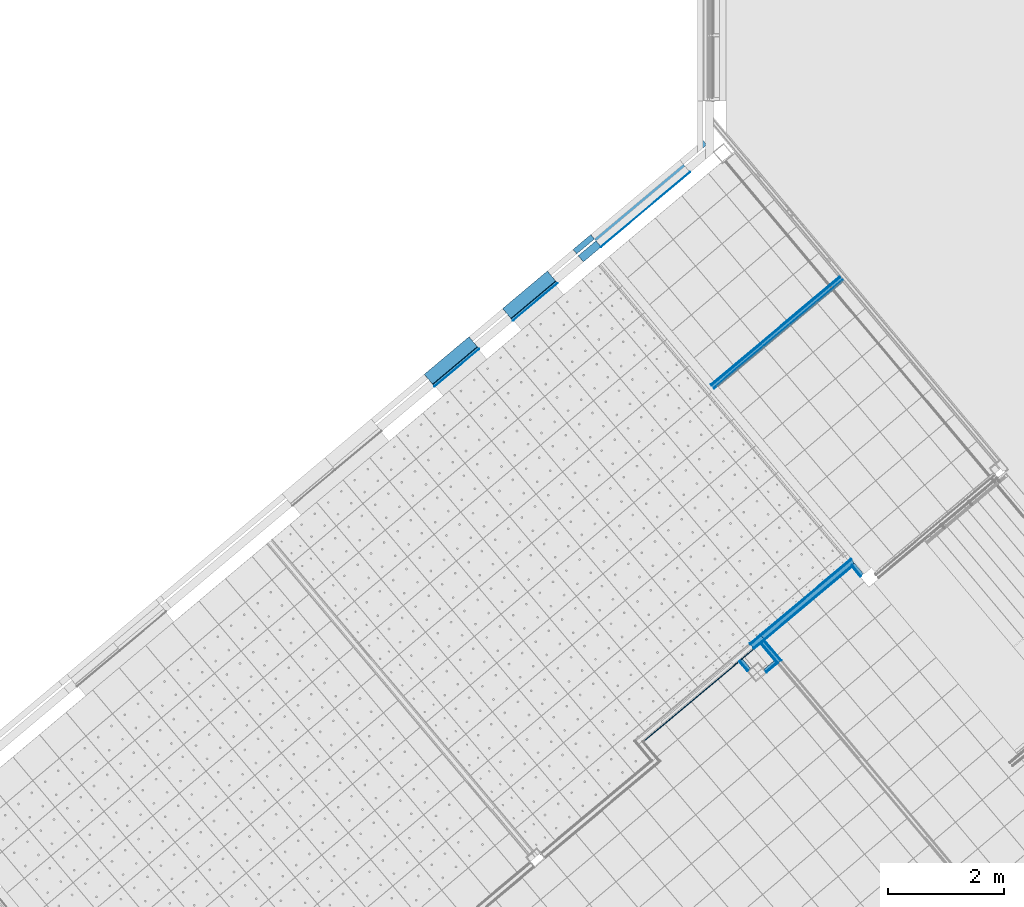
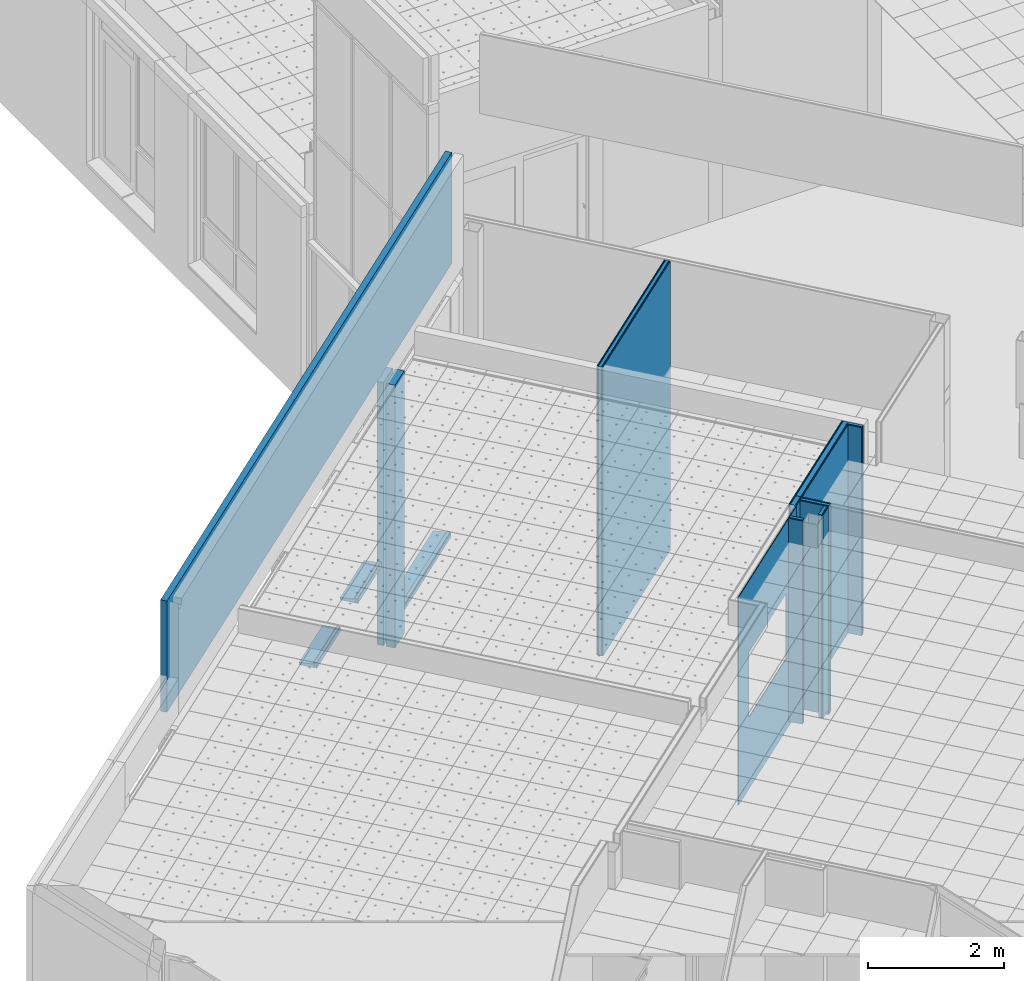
# One storey, part 62 of 338: 41 building element parts, 1 opening, 13 elements without a shape of their own.
"""IFC2X3 building model written with IfcOpenShell, lengths in millimetres."""

from ifc_helpers import new_model, entity, si_unit, converted_unit, derived_unit, money_unit, direction, frame, origin_with_axes, place, context, subcontext, project, spatial, faceted_brep, material, type_object, element, aggregate, save


model = new_model("IFC2X3")

# Units and contexts
model_context = context("Model", 3, precision=0.01, world=origin_with_axes(), true_north=direction((0.0, 1.0)))
plan_context = context("Plan", 3, precision=0.01, world=origin_with_axes(), true_north=direction((0.0, 1.0)))
body_context = subcontext(model_context, "Body", "Model", "MODEL_VIEW")
ifc_project = project(units=[si_unit("LENGTHUNIT", "METRE", prefix="MILLI"), si_unit("AREAUNIT", "SQUARE_METRE"), si_unit("VOLUMEUNIT", "CUBIC_METRE"), converted_unit("PLANEANGLEUNIT", "DEGREE", entity("IfcPlaneAngleMeasure", 0.0174532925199), si_unit("PLANEANGLEUNIT", "RADIAN"), dimensions=[0, 0, 0, 0, 0, 0, 0]), money_unit("EUR"), converted_unit("TIMEUNIT", "Year", entity("IfcTimeMeasure", 31556926.0), si_unit("TIMEUNIT", "SECOND"), dimensions=[0, 0, 1, 0, 0, 0, 0]), si_unit("MASSUNIT", "GRAM", prefix="KILO"), si_unit("THERMODYNAMICTEMPERATUREUNIT", "DEGREE_CELSIUS"), si_unit("LUMINOUSINTENSITYUNIT", "LUMEN"), si_unit("ENERGYUNIT", "JOULE", prefix="MEGA"), derived_unit("THERMALCONDUCTANCEUNIT", [(si_unit("POWERUNIT", "WATT"), 1), (si_unit("LENGTHUNIT", "METRE"), -1), (si_unit("THERMODYNAMICTEMPERATUREUNIT", "KELVIN"), -1)]), derived_unit("SPECIFICHEATCAPACITYUNIT", [(si_unit("ENERGYUNIT", "JOULE"), 1), (si_unit("MASSUNIT", "GRAM", prefix="KILO"), -1), (si_unit("THERMODYNAMICTEMPERATUREUNIT", "KELVIN"), -1)]), derived_unit("MASSDENSITYUNIT", [(si_unit("MASSUNIT", "GRAM", prefix="KILO"), 1), (si_unit("VOLUMEUNIT", "CUBIC_METRE"), -1)])], contexts=[model_context, plan_context])

# Site, building, storey
site_placement = place(None, origin_with_axes())
site = spatial("IfcSite", under=ifc_project, at=site_placement, Name="Fortuinstraat Woensdrecht", CompositionType="ELEMENT")
building_placement = place(site_placement, origin_with_axes())
building = spatial("IfcBuilding", under=site, at=building_placement, Name="IKC Fortuna", CompositionType="ELEMENT")
storey_placement = place(building_placement, origin_with_axes())
storey = spatial("IfcBuildingStorey", under=building, at=storey_placement, Name="00 begane grond", CompositionType="ELEMENT", Elevation=0.0)

# Wall, building element parts
wall_type_1 = type_object("IfcWallType", Name="MS100 2.50.2A 100", PredefinedType="NOTDEFINED")
wall_1_placement = place(storey_placement, frame((13612.1430338, 7323.55993724, -90.0), z_axis=(0.0, 0.0, 1.0), x_axis=(0.766044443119, 0.642787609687, 0.0)))
wall_1 = element("IfcWall", 1, at=wall_1_placement, inside=storey, type_object=wall_type_1, Name="22_Wand_Binnenwand")
ifc_material_1 = material(Name="Gipsplaat")
building_element_part_1_placement = place(wall_1_placement, origin_with_axes())
building_element_part_1 = element("IfcBuildingElementPart", 2, at=building_element_part_1_placement, material=ifc_material_1, Name="Gipsplaat", context=body_context, shape_type="Brep", body=[
    faceted_brep([(2902.49994966, 100.0, 5190.0), (0.0, 100.0, 5190.0), (0.0, 87.5, 5190.0), (2902.49994966, 87.5, 5190.0), (2902.49994966, 100.0, 0.0), (0.0, 100.0, 0.0), (0.0, 87.5, 0.0), (2902.49994966, 87.5, 0.0)], [[[0, 1, 2, 3]], [[4, 5, 1, 0]], [[2, 1, 5, 6]], [[3, 2, 6, 7]], [[3, 7, 4, 0]], [[7, 6, 5, 4]]]),
])
building_element_part_2_placement = place(wall_1_placement, origin_with_axes())
building_element_part_2 = element("IfcBuildingElementPart", 3, at=building_element_part_2_placement, material=ifc_material_1, Name="Gipsplaat", context=body_context, shape_type="Brep", body=[
    faceted_brep([(2902.49994966, 87.5, 5190.0), (0.0, 87.5, 5190.0), (0.0, 75.0, 5190.0), (2902.49994966, 75.0, 5190.0), (2902.49994966, 87.5, 0.0), (0.0, 87.5, 0.0), (0.0, 75.0, 0.0), (2902.49994966, 75.0, 0.0)], [[[0, 1, 2, 3]], [[4, 5, 1, 0]], [[2, 1, 5, 6]], [[3, 2, 6, 7]], [[3, 7, 4, 0]], [[7, 6, 5, 4]]]),
])
ifc_material_2 = material(Name="Isolatie - Steenwol LSW")
building_element_part_3_placement = place(wall_1_placement, origin_with_axes())
building_element_part_3 = element("IfcBuildingElementPart", 4, at=building_element_part_3_placement, material=ifc_material_2, Name="Isolatie - Steenwol LSW", context=body_context, shape_type="Brep", body=[
    faceted_brep([(2902.49994966, 75.0, 5190.0), (0.0, 75.0, 5190.0), (0.0, 25.0, 5190.0), (2902.49994966, 25.0, 5190.0), (2902.49994966, 75.0, 0.0), (0.0, 75.0, 0.0), (0.0, 25.0, 0.0), (2902.49994966, 25.0, 0.0)], [[[0, 1, 2, 3]], [[4, 5, 1, 0]], [[2, 1, 5, 6]], [[3, 2, 6, 7]], [[3, 7, 4, 0]], [[7, 6, 5, 4]]]),
])
building_element_part_4_placement = place(wall_1_placement, origin_with_axes())
building_element_part_4 = element("IfcBuildingElementPart", 5, at=building_element_part_4_placement, material=ifc_material_1, Name="Gipsplaat", context=body_context, shape_type="Brep", body=[
    faceted_brep([(2902.49994966, 25.0, 5190.0), (0.0, 25.0, 5190.0), (0.0, 12.5, 5190.0), (2902.49994966, 12.5, 5190.0), (2902.49994966, 25.0, 0.0), (0.0, 25.0, 0.0), (0.0, 12.5, 0.0), (2902.49994966, 12.5, 0.0)], [[[0, 1, 2, 3]], [[4, 5, 1, 0]], [[2, 1, 5, 6]], [[3, 2, 6, 7]], [[3, 7, 4, 0]], [[7, 6, 5, 4]]]),
])
building_element_part_5_placement = place(wall_1_placement, origin_with_axes())
building_element_part_5 = element("IfcBuildingElementPart", 6, at=building_element_part_5_placement, material=ifc_material_1, Name="Gipsplaat", context=body_context, shape_type="Brep", body=[
    faceted_brep([(2902.49994966, 12.5, 5190.0), (0.0, 12.5, 5190.0), (0.0, 0.0, 5190.0), (2902.49994966, 0.0, 5190.0), (2902.49994966, 12.5, 0.0), (0.0, 12.5, 0.0), (0.0, 0.0, 0.0), (2902.49994966, 0.0, 0.0)], [[[0, 1, 2, 3]], [[4, 5, 1, 0]], [[2, 1, 5, 6]], [[3, 2, 6, 7]], [[3, 7, 4, 0]], [[7, 6, 5, 4]]]),
])
aggregate(wall_1, [building_element_part_1, building_element_part_2, building_element_part_3, building_element_part_4, building_element_part_5])

# Wall, opening, building element part
wall_type_2 = type_object("IfcWallType", Name="MS125 2.75.2A 125", PredefinedType="NOTDEFINED")
wall_2_placement = place(storey_placement, frame((12346.0544925, 1180.5984162, 1360.0), z_axis=(0.0, 0.0, 1.0), x_axis=(0.766044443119, 0.642787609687, 0.0)))
wall_2 = element("IfcWall", 7, at=wall_2_placement, inside=storey, type_object=wall_type_2, Name="22_Wand_Binnenwand")
opening_placement = place(wall_2_placement, frame((1305.49959372, 0.0, 1290.0), z_axis=(0.0, 0.0, 1.0), x_axis=(1.0, 0.0, 0.0)))
element("IfcOpeningElement", 8, at=opening_placement, cuts=wall_2, Name="32_Raam_h.05", context=body_context, shape_type="Brep", body=[
    faceted_brep([(-800.0, 11.0, 0.0), (-800.0, 11.0, 1167.0), (-800.0, 250.0, 1167.0), (-800.0, 250.0, 0.0), (800.0, 11.0, 0.0), (800.0, 11.0, 1167.0), (800.0, 250.0, 1167.0), (800.0, 250.0, 0.0)], [[[0, 1, 2, 3]], [[0, 4, 5, 1]], [[1, 5, 6, 2]], [[3, 2, 6, 7]], [[4, 0, 3, 7]], [[5, 4, 7, 6]]]),
    faceted_brep([(-800.0, 11.0, 1167.0), (-800.0, 11.0, 0.0), (-800.0, -125.0, 0.0), (-800.0, -125.0, 1167.0), (800.0, 11.0, 1167.0), (800.0, 11.0, 0.0), (800.0, -125.0, 0.0), (800.0, -125.0, 1167.0)], [[[0, 1, 2, 3]], [[0, 4, 5, 1]], [[1, 5, 6, 2]], [[3, 2, 6, 7]], [[4, 0, 3, 7]], [[5, 4, 7, 6]]]),
])
building_element_part_6_placement = place(wall_2_placement, origin_with_axes())
building_element_part_6 = element("IfcBuildingElementPart", 9, at=building_element_part_6_placement, material=ifc_material_1, Name="Gipsplaat", context=body_context, shape_type="Brep", body=[
    faceted_brep([(50.0, 12.5, 0.0), (50.0, 12.5, 3740.0), (2554.51388736, 12.5, 3740.0), (2554.51388736, 12.5, 0.0), (505.499593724, 12.5, 1290.0), (2105.49959372, 12.5, 1290.0), (2105.49959372, 12.5, 2457.0), (505.499593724, 12.5, 2457.0), (50.0, 0.0, 0.0), (50.0, 0.0, 3740.0), (2554.51388736, 0.0, 3740.0), (2554.51388736, 0.0, 0.0), (505.499593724, 0.0, 1290.0), (2105.49959372, 0.0, 1290.0), (2105.49959372, 0.0, 2457.0), (505.499593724, 0.0, 2457.0)], [[[0, 1, 2, 3], [4, 5, 6, 7]], [[0, 8, 9, 1]], [[1, 9, 10, 2]], [[3, 2, 10, 11]], [[8, 0, 3, 11]], [[5, 4, 12, 13]], [[14, 6, 5, 13]], [[15, 7, 6, 14]], [[4, 7, 15, 12]], [[9, 8, 11, 10], [15, 14, 13, 12]]]),
])
aggregate(wall_2, [building_element_part_6])

# Wall, building element part
wall_type_3 = type_object("IfcWallType", Name="21 MW hoofd 280", PredefinedType="NOTDEFINED")
wall_3_placement = place(storey_placement, frame((13595.4349765, 11407.9244745, 4447.5), z_axis=(0.0, 0.0, 1.0), x_axis=(-0.766044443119, -0.642787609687, 0.0)))
wall_3 = element("IfcWall", 10, at=wall_3_placement, inside=storey, type_object=wall_type_3, Name="21_Wand_Baksteen")
ifc_material_3 = material(Name="Steen - Baksteen Hoofd")
building_element_part_7_placement = place(wall_3_placement, origin_with_axes())
building_element_part_7 = element("IfcBuildingElementPart", 11, at=building_element_part_7_placement, material=ifc_material_3, Name="Steen - Baksteen Hoofd", context=body_context, shape_type="Brep", body=[
    faceted_brep([(0.0, -280.0, 0.0), (0.0, -180.0, 0.0), (12252.67992, -180.0, 0.0), (12252.67992, -280.0, 0.0), (0.0, -280.0, 2000.0), (0.0, -180.0, 2000.0), (12252.67992, -180.0, 2000.0), (12252.67992, -280.0, 2000.0)], [[[0, 1, 2, 3]], [[4, 5, 1, 0]], [[1, 5, 6, 2]], [[7, 3, 2, 6]], [[4, 0, 3, 7]], [[5, 4, 7, 6]]]),
])
aggregate(wall_3, [building_element_part_7])

# Covering, building element parts
covering_type_1 = type_object("IfcCoveringType", Name="41 dorpel 1450 280 x 88", PredefinedType="NOTDEFINED")
covering_1_placement = place(storey_placement, frame((10036.7735704, 8604.6100216, 1447.5), z_axis=(0.0, 0.0, 1.0), x_axis=(0.766044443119, 0.642787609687, 0.0)))
covering_1 = element("IfcCovering", 12, at=covering_1_placement, inside=storey, type_object=covering_type_1, Name="41_Afwerking_Dorpel", PredefinedType="NOTDEFINED")
ifc_material_4 = material(Name="Steen - Kunststeen")
building_element_part_8_placement = place(covering_1_placement, origin_with_axes())
building_element_part_8 = element("IfcBuildingElementPart", 13, at=building_element_part_8_placement, material=ifc_material_4, Name="Steen - Kunststeen", context=body_context, shape_type="Brep", body=[
    faceted_brep([(1010.0, 140.0, -39.7722078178), (1010.0, 140.0, -85.0), (0.0, 140.0, -85.0), (0.0, 140.0, -39.7722078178), (1010.0, -82.0, -19.5865456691), (1010.0, -82.0, 2.5), (1010.0, -92.0, 2.5), (1010.0, -92.0, -85.0), (0.0, -92.0, -85.0), (0.0, -92.0, 2.5), (0.0, -82.0, 2.5), (0.0, -82.0, -19.5865456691)], [[[0, 1, 2, 3]], [[0, 4, 5, 6, 7, 1]], [[1, 7, 8, 2]], [[3, 2, 8, 9, 10, 11]], [[4, 0, 3, 11]], [[5, 4, 11, 10]], [[6, 5, 10, 9]], [[7, 6, 9, 8]]]),
])
ifc_material_5 = material(Name="Hout AFW")
building_element_part_9_placement = place(covering_1_placement, origin_with_axes())
building_element_part_9 = element("IfcBuildingElementPart", 14, at=building_element_part_9_placement, material=ifc_material_5, Name="Hout AFW", context=body_context, shape_type="Brep", body=[
    faceted_brep([(1010.0, -92.0000008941, 2.49999910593), (1010.0, -92.0000008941, -85.0), (0.0, -92.0000008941, -85.0), (0.0, -92.0000008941, 2.49999910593), (1010.0, -130.0, 2.49999910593), (1010.0, -130.0, -85.0), (0.0, -130.0, -85.0), (0.0, -130.0, 2.49999910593)], [[[0, 1, 2, 3]], [[0, 4, 5, 1]], [[1, 5, 6, 2]], [[3, 2, 6, 7]], [[4, 0, 3, 7]], [[5, 4, 7, 6]]]),
])
ifc_material_6 = material(Name="Isolatie - PUR gespoten")
building_element_part_10_placement = place(covering_1_placement, origin_with_axes())
building_element_part_10 = element("IfcBuildingElementPart", 15, at=building_element_part_10_placement, material=ifc_material_6, Name="Isolatie - PUR gespoten", context=body_context, shape_type="Brep", body=[
    faceted_brep([(1010.0, -129.999999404, -85.0), (1010.0, -140.000000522, -85.0), (0.0, -140.000000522, -85.0), (0.0, -129.999999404, -85.0), (1010.0, -129.999999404, 2.49999869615), (1010.0, -140.000000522, 2.5), (0.0, -140.000000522, 2.5), (0.0, -129.999999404, 2.49999869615)], [[[0, 1, 2, 3]], [[0, 4, 5, 1]], [[1, 5, 6, 2]], [[3, 2, 6, 7]], [[4, 0, 3, 7]], [[5, 4, 7, 6]]]),
])
aggregate(covering_1, [building_element_part_8, building_element_part_9, building_element_part_10])

covering_2_placement = place(storey_placement, frame((8681.51013045, 7467.40896903, 1447.5), z_axis=(0.0, 0.0, 1.0), x_axis=(0.766044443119, 0.642787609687, 0.0)))
covering_2 = element("IfcCovering", 16, at=covering_2_placement, inside=storey, type_object=covering_type_1, Name="41_Afwerking_Dorpel", PredefinedType="NOTDEFINED")
building_element_part_11_placement = place(covering_2_placement, origin_with_axes())
building_element_part_11 = element("IfcBuildingElementPart", 17, at=building_element_part_11_placement, material=ifc_material_4, Name="Steen - Kunststeen", context=body_context, shape_type="Brep", body=[
    faceted_brep([(1010.0, 140.0, -39.7722078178), (1010.0, 140.0, -85.0), (0.0, 140.0, -85.0), (0.0, 140.0, -39.7722078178), (1010.0, -82.0, -19.5865456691), (1010.0, -82.0, 2.5), (1010.0, -92.0, 2.5), (1010.0, -92.0, -85.0), (0.0, -92.0, -85.0), (0.0, -92.0, 2.5), (0.0, -82.0, 2.5), (0.0, -82.0, -19.5865456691)], [[[0, 1, 2, 3]], [[0, 4, 5, 6, 7, 1]], [[1, 7, 8, 2]], [[3, 2, 8, 9, 10, 11]], [[4, 0, 3, 11]], [[5, 4, 11, 10]], [[6, 5, 10, 9]], [[7, 6, 9, 8]]]),
])
building_element_part_12_placement = place(covering_2_placement, origin_with_axes())
building_element_part_12 = element("IfcBuildingElementPart", 18, at=building_element_part_12_placement, material=ifc_material_5, Name="Hout AFW", context=body_context, shape_type="Brep", body=[
    faceted_brep([(1010.0, -92.0000008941, 2.49999910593), (1010.0, -92.0000008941, -85.0), (0.0, -92.0000008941, -85.0), (0.0, -92.0000008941, 2.49999910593), (1010.0, -130.0, 2.49999910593), (1010.0, -130.0, -85.0), (0.0, -130.0, -85.0), (0.0, -130.0, 2.49999910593)], [[[0, 1, 2, 3]], [[0, 4, 5, 1]], [[1, 5, 6, 2]], [[3, 2, 6, 7]], [[4, 0, 3, 7]], [[5, 4, 7, 6]]]),
])
building_element_part_13_placement = place(covering_2_placement, origin_with_axes())
building_element_part_13 = element("IfcBuildingElementPart", 19, at=building_element_part_13_placement, material=ifc_material_6, Name="Isolatie - PUR gespoten", context=body_context, shape_type="Brep", body=[
    faceted_brep([(1010.0, -129.999999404, -85.0), (1010.0, -140.000000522, -85.0), (0.0, -140.000000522, -85.0), (0.0, -129.999999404, -85.0), (1010.0, -129.999999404, 2.49999869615), (1010.0, -140.000000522, 2.5), (0.0, -140.000000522, 2.5), (0.0, -129.999999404, 2.49999869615)], [[[0, 1, 2, 3]], [[0, 4, 5, 1]], [[1, 5, 6, 2]], [[3, 2, 6, 7]], [[4, 0, 3, 7]], [[5, 4, 7, 6]]]),
])
aggregate(covering_2, [building_element_part_11, building_element_part_12, building_element_part_13])

# Wall, building element parts
wall_type_4 = type_object("IfcWallType", Name="21 MW accent 280", PredefinedType="NOTDEFINED")
wall_4_placement = place(storey_placement, frame((11651.8275335, 9777.04418592, -485.0), z_axis=(0.0, 0.0, 1.0), x_axis=(-0.766044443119, -0.642787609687, 0.0)))
wall_4 = element("IfcWall", 20, at=wall_4_placement, inside=storey, type_object=wall_type_4, Name="21_Wand_Baksteen")
ifc_material_7 = material(Name="ALG - ISOLATIE")
building_element_part_14_placement = place(wall_4_placement, origin_with_axes())
building_element_part_14 = element("IfcBuildingElementPart", 21, at=building_element_part_14_placement, material=ifc_material_7, Name="ALG - ISOLATIE", context=body_context, shape_type="Brep", body=[
    faceted_brep([(0.0, -140.0, 0.0), (0.0, 0.0, 0.0), (400.380530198, 0.0, 0.0), (400.380530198, -140.0, 0.0), (0.0, -140.0, 4722.5), (0.0, 0.0, 4722.5), (400.380530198, 0.0, 4722.5), (400.380530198, -140.0, 4722.5)], [[[0, 1, 2, 3]], [[4, 5, 1, 0]], [[1, 5, 6, 2]], [[7, 3, 2, 6]], [[4, 0, 3, 7]], [[5, 4, 7, 6]]]),
])
ifc_material_8 = material(Name="Steen - Baksteen Accent")
building_element_part_15_placement = place(wall_4_placement, origin_with_axes())
building_element_part_15 = element("IfcBuildingElementPart", 22, at=building_element_part_15_placement, material=ifc_material_8, Name="Steen - Baksteen Accent", context=body_context, shape_type="Brep", body=[
    faceted_brep([(0.0, -180.0, 0.0), (400.380530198, -180.0, 0.0), (400.380530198, -280.0, 0.0), (0.0, -280.0, 0.0), (0.0, -180.0, 4722.5), (400.380530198, -180.0, 4722.5), (400.380530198, -280.0, 4722.5), (0.0, -280.0, 4722.5)], [[[0, 1, 2, 3]], [[4, 5, 1, 0]], [[2, 1, 5, 6]], [[3, 2, 6, 7]], [[4, 0, 3, 7]], [[7, 6, 5, 4]]]),
])
aggregate(wall_4, [building_element_part_14, building_element_part_15])

# Covering, building element parts
covering_type_2 = type_object("IfcCoveringType", Name="41 dorpel d bi 280 x 95", PredefinedType="NOTDEFINED")
covering_3_placement = place(storey_placement, frame((11561.8372682, 9884.29040795, -2.5), z_axis=(0.0, 0.0, 1.0), x_axis=(0.766044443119, 0.642787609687, 0.0)))
covering_3 = element("IfcCovering", 23, at=covering_3_placement, inside=storey, type_object=covering_type_2, Name="41_Afwerking_Waterslag", PredefinedType="NOTDEFINED")
building_element_part_16_placement = place(covering_3_placement, origin_with_axes())
building_element_part_16 = element("IfcBuildingElementPart", 24, at=building_element_part_16_placement, material=ifc_material_4, Name="Steen - Kunststeen", context=body_context, shape_type="Brep", body=[
    faceted_brep([(2010.0, 140.0, -17.1401037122), (2010.0, 140.0, -72.5), (0.0, 140.0, -72.5), (0.0, 140.0, -17.1401037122), (2010.0, -76.0, 2.5), (2010.0, -76.0, 22.5), (2010.0, -130.0, 22.5), (2010.0, -129.999999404, 2.49999821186), (2010.0, -130.0, -72.5), (0.0, -130.0, -72.5), (0.0, -129.999999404, 2.49999821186), (0.0, -130.0, 22.5), (0.0, -76.0, 22.5), (0.0, -76.0, 2.5)], [[[0, 1, 2, 3]], [[0, 4, 5, 6, 7, 8, 1]], [[1, 8, 9, 2]], [[3, 2, 9, 10, 11, 12, 13]], [[4, 0, 3, 13]], [[5, 4, 13, 12]], [[6, 5, 12, 11]], [[7, 6, 11, 10]], [[8, 7, 10, 9]]]),
])
building_element_part_17_placement = place(covering_3_placement, origin_with_axes())
building_element_part_17 = element("IfcBuildingElementPart", 25, at=building_element_part_17_placement, material=ifc_material_6, Name="Isolatie - PUR gespoten", context=body_context, shape_type="Brep", body=[
    faceted_brep([(2010.0, -140.0, 2.49999821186), (2010.0, -129.999999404, 2.49999821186), (0.0, -129.999999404, 2.49999821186), (0.0, -140.0, 2.49999821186), (2010.0, -140.0, -72.5), (2010.0, -129.999999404, -72.5), (0.0, -129.999999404, -72.5), (0.0, -140.0, -72.5)], [[[0, 1, 2, 3]], [[0, 4, 5, 1]], [[1, 5, 6, 2]], [[3, 2, 6, 7]], [[4, 0, 3, 7]], [[5, 4, 7, 6]]]),
])
aggregate(covering_3, [building_element_part_16, building_element_part_17])

# Wall, building element parts
wall_type_5 = type_object("IfcWallType", Name="MS75 50.2A 75", PredefinedType="NOTDEFINED")
wall_5_placement = place(storey_placement, frame((16050.9366111, 4289.36363547, 1360.0), z_axis=(0.0, 0.0, 1.0), x_axis=(0.642787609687, -0.766044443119, 0.0)))
wall_5 = element("IfcWall", 26, at=wall_5_placement, inside=storey, type_object=wall_type_5, Name="22_Wand_Binnenwand")
building_element_part_18_placement = place(wall_5_placement, origin_with_axes())
building_element_part_18 = element("IfcBuildingElementPart", 27, at=building_element_part_18_placement, material=ifc_material_2, Name="Isolatie - Steenwol LSW", context=body_context, shape_type="Brep", body=[
    faceted_brep([(214.99999757, 0.0, 0.0), (214.99999757, -50.0, 0.0), (-25.0, -50.0, 0.0), (-25.0, 0.0, 0.0), (214.99999757, 0.0, 3740.0), (214.99999757, -50.0, 3740.0), (-25.0, -50.0, 3740.0), (-25.0, 0.0, 3740.0)], [[[0, 1, 2, 3]], [[0, 4, 5, 1]], [[1, 5, 6, 2]], [[3, 2, 6, 7]], [[4, 0, 3, 7]], [[5, 4, 7, 6]]]),
])
building_element_part_19_placement = place(wall_5_placement, origin_with_axes())
building_element_part_19 = element("IfcBuildingElementPart", 28, at=building_element_part_19_placement, material=ifc_material_1, Name="Gipsplaat", context=body_context, shape_type="Brep", body=[
    faceted_brep([(214.99999757, -50.0, 0.0), (214.99999757, -62.5, 0.0), (-25.0, -62.5, 0.0), (-25.0, -50.0, 0.0), (214.99999757, -50.0, 3740.0), (214.99999757, -62.5, 3740.0), (-25.0, -62.5, 3740.0), (-25.0, -50.0, 3740.0)], [[[0, 1, 2, 3]], [[0, 4, 5, 1]], [[1, 5, 6, 2]], [[3, 2, 6, 7]], [[4, 0, 3, 7]], [[5, 4, 7, 6]]]),
])
building_element_part_20_placement = place(wall_5_placement, origin_with_axes())
building_element_part_20 = element("IfcBuildingElementPart", 29, at=building_element_part_20_placement, material=ifc_material_1, Name="Gipsplaat", context=body_context, shape_type="Brep", body=[
    faceted_brep([(214.99999757, -62.5, 0.0), (214.99999757, -75.0, 0.0), (-12.5, -75.0, 0.0), (-12.5, -62.5, 0.0), (214.99999757, -62.5, 3740.0), (214.99999757, -75.0, 3740.0), (-12.5, -75.0, 3740.0), (-12.5, -62.5, 3740.0)], [[[0, 1, 2, 3]], [[0, 4, 5, 1]], [[1, 5, 6, 2]], [[3, 2, 6, 7]], [[4, 0, 3, 7]], [[5, 4, 7, 6]]]),
])
aggregate(wall_5, [building_element_part_18, building_element_part_19, building_element_part_20])

wall_6_placement = place(storey_placement, frame((14775.2537575, 2631.50534331, 1360.0), z_axis=(0.0, 0.0, 1.0), x_axis=(-0.642787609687, 0.766044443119, 0.0)))
wall_6 = element("IfcWall", 30, at=wall_6_placement, inside=storey, type_object=wall_type_1, Name="22_Wand_Binnenwand")
building_element_part_21_placement = place(wall_6_placement, origin_with_axes())
building_element_part_21 = element("IfcBuildingElementPart", 31, at=building_element_part_21_placement, material=ifc_material_1, Name="Gipsplaat", context=body_context, shape_type="Brep", body=[
    faceted_brep([(450.0, 87.5, 0.0), (450.0, 87.5, 3740.0), (0.0, 87.5, 3740.0), (0.0, 87.5, 0.0), (450.0, 100.0, 3740.0), (450.0, 100.0, 0.0), (0.0, 100.0, 3740.0), (0.0, 100.0, 0.0)], [[[0, 1, 2, 3]], [[4, 1, 0, 5]], [[1, 4, 6, 2]], [[7, 3, 2, 6]], [[5, 0, 3, 7]], [[4, 5, 7, 6]]]),
])
building_element_part_22_placement = place(wall_6_placement, origin_with_axes())
building_element_part_22 = element("IfcBuildingElementPart", 32, at=building_element_part_22_placement, material=ifc_material_1, Name="Gipsplaat", context=body_context, shape_type="Brep", body=[
    faceted_brep([(450.0, 75.0, 0.0), (450.0, 75.0, 3740.0), (0.0, 75.0, 3740.0), (0.0, 75.0, 0.0), (450.0, 87.5, 3740.0), (450.0, 87.5, 0.0), (0.0, 87.5, 3740.0), (0.0, 87.5, 0.0)], [[[0, 1, 2, 3]], [[4, 1, 0, 5]], [[1, 4, 6, 2]], [[7, 3, 2, 6]], [[5, 0, 3, 7]], [[4, 5, 7, 6]]]),
])
building_element_part_23_placement = place(wall_6_placement, origin_with_axes())
building_element_part_23 = element("IfcBuildingElementPart", 33, at=building_element_part_23_placement, material=ifc_material_2, Name="Isolatie - Steenwol LSW", context=body_context, shape_type="Brep", body=[
    faceted_brep([(450.0, 25.0, 0.0), (450.0, 25.0, 3740.0), (0.0, 25.0, 3740.0), (0.0, 25.0, 0.0), (450.0, 75.0, 3740.0), (450.0, 75.0, 0.0), (0.0, 75.0, 3740.0), (0.0, 75.0, 0.0)], [[[0, 1, 2, 3]], [[4, 1, 0, 5]], [[1, 4, 6, 2]], [[7, 3, 2, 6]], [[5, 0, 3, 7]], [[4, 5, 7, 6]]]),
])
building_element_part_24_placement = place(wall_6_placement, origin_with_axes())
building_element_part_24 = element("IfcBuildingElementPart", 34, at=building_element_part_24_placement, material=ifc_material_1, Name="Gipsplaat", context=body_context, shape_type="Brep", body=[
    faceted_brep([(450.0, 12.5, 0.0), (450.0, 12.5, 3740.0), (0.0, 12.5, 3740.0), (0.0, 12.5, 0.0), (450.0, 25.0, 3740.0), (450.0, 25.0, 0.0), (0.0, 25.0, 3740.0), (0.0, 25.0, 0.0)], [[[0, 1, 2, 3]], [[4, 1, 0, 5]], [[1, 4, 6, 2]], [[7, 3, 2, 6]], [[5, 0, 3, 7]], [[4, 5, 7, 6]]]),
])
building_element_part_25_placement = place(wall_6_placement, origin_with_axes())
building_element_part_25 = element("IfcBuildingElementPart", 35, at=building_element_part_25_placement, material=ifc_material_1, Name="Gipsplaat", context=body_context, shape_type="Brep", body=[
    faceted_brep([(450.0, 0.0, 0.0), (450.0, 0.0, 3740.0), (0.0, 0.0, 3740.0), (0.0, 0.0, 0.0), (450.0, 12.5, 3740.0), (450.0, 12.5, 0.0), (0.0, 12.5, 3740.0), (0.0, 12.5, 0.0)], [[[0, 1, 2, 3]], [[4, 1, 0, 5]], [[1, 4, 6, 2]], [[7, 3, 2, 6]], [[5, 0, 3, 7]], [[4, 5, 7, 6]]]),
])
aggregate(wall_6, [building_element_part_21, building_element_part_22, building_element_part_23, building_element_part_24, building_element_part_25])

wall_7_placement = place(storey_placement, frame((14178.5912823, 2437.61679343, 1450.0), z_axis=(0.0, 0.0, 1.0), x_axis=(-0.642787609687, 0.766044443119, 0.0)))
wall_7 = element("IfcWall", 36, at=wall_7_placement, inside=storey, type_object=wall_type_5, Name="22_Wand_Binnenwand")
building_element_part_26_placement = place(wall_7_placement, origin_with_axes())
building_element_part_26 = element("IfcBuildingElementPart", 37, at=building_element_part_26_placement, material=ifc_material_1, Name="Gipsplaat", context=body_context, shape_type="Brep", body=[
    faceted_brep([(215.0, 0.0, 3650.0), (0.0, 0.0, 3650.0), (0.0, -12.5, 3650.0), (215.0, -12.5, 3650.0), (215.0, 0.0, 0.0), (0.0, 0.0, 0.0), (0.0, -12.5, 0.0), (215.0, -12.5, 0.0)], [[[0, 1, 2, 3]], [[4, 5, 1, 0]], [[2, 1, 5, 6]], [[3, 2, 6, 7]], [[3, 7, 4, 0]], [[7, 6, 5, 4]]]),
])
building_element_part_27_placement = place(wall_7_placement, origin_with_axes())
building_element_part_27 = element("IfcBuildingElementPart", 38, at=building_element_part_27_placement, material=ifc_material_1, Name="Gipsplaat", context=body_context, shape_type="Brep", body=[
    faceted_brep([(215.0, -12.5, 3650.0), (0.0, -12.5, 3650.0), (0.0, -25.0, 3650.0), (215.0, -25.0, 3650.0), (215.0, -12.5, 0.0), (0.0, -12.5, 0.0), (0.0, -25.0, 0.0), (215.0, -25.0, 0.0)], [[[0, 1, 2, 3]], [[4, 5, 1, 0]], [[2, 1, 5, 6]], [[3, 2, 6, 7]], [[3, 7, 4, 0]], [[7, 6, 5, 4]]]),
])
building_element_part_28_placement = place(wall_7_placement, origin_with_axes())
building_element_part_28 = element("IfcBuildingElementPart", 39, at=building_element_part_28_placement, material=ifc_material_2, Name="Isolatie - Steenwol LSW", context=body_context, shape_type="Brep", body=[
    faceted_brep([(215.0, -25.0, 3650.0), (0.0, -25.0, 3650.0), (0.0, -75.0, 3650.0), (215.0, -75.0, 3650.0), (215.0, -25.0, 0.0), (0.0, -25.0, 0.0), (0.0, -75.0, 0.0), (215.0, -75.0, 0.0)], [[[0, 1, 2, 3]], [[4, 5, 1, 0]], [[2, 1, 5, 6]], [[3, 2, 6, 7]], [[3, 7, 4, 0]], [[7, 6, 5, 4]]]),
])
aggregate(wall_7, [building_element_part_26, building_element_part_27, building_element_part_28])

wall_8_placement = place(storey_placement, frame((14517.3272591, 2415.07931367, 1450.0), z_axis=(0.0, 0.0, 1.0), x_axis=(0.766044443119, 0.642787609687, 0.0)))
wall_8 = element("IfcWall", 40, at=wall_8_placement, inside=storey, type_object=wall_type_5, Name="22_Wand_Binnenwand")
building_element_part_29_placement = place(wall_8_placement, origin_with_axes())
building_element_part_29 = element("IfcBuildingElementPart", 41, at=building_element_part_29_placement, material=ifc_material_2, Name="Isolatie - Steenwol LSW", context=body_context, shape_type="Brep", body=[
    faceted_brep([(236.699131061, 25.0, 0.0), (236.699131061, 25.0, 3650.0), (0.0, 25.0, 3650.0), (0.0, 25.0, 0.0), (236.699131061, 75.0, 3650.0), (236.699131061, 75.0, 0.0), (0.0, 75.0, 3650.0), (0.0, 75.0, 0.0)], [[[0, 1, 2, 3]], [[4, 1, 0, 5]], [[1, 4, 6, 2]], [[2, 6, 7, 3]], [[5, 0, 3, 7]], [[4, 5, 7, 6]]]),
])
building_element_part_30_placement = place(wall_8_placement, origin_with_axes())
building_element_part_30 = element("IfcBuildingElementPart", 42, at=building_element_part_30_placement, material=ifc_material_1, Name="Gipsplaat", context=body_context, shape_type="Brep", body=[
    faceted_brep([(236.699131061, 12.5, 0.0), (236.699131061, 12.5, 3650.0), (0.0, 12.5, 3650.0), (0.0, 12.5, 0.0), (236.699131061, 25.0, 3650.0), (236.699131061, 25.0, 0.0), (0.0, 25.0, 3650.0), (0.0, 25.0, 0.0)], [[[0, 1, 2, 3]], [[4, 1, 0, 5]], [[1, 4, 6, 2]], [[2, 6, 7, 3]], [[5, 0, 3, 7]], [[4, 5, 7, 6]]]),
])
building_element_part_31_placement = place(wall_8_placement, origin_with_axes())
building_element_part_31 = element("IfcBuildingElementPart", 43, at=building_element_part_31_placement, material=ifc_material_1, Name="Gipsplaat", context=body_context, shape_type="Brep", body=[
    faceted_brep([(236.699131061, 0.0, 0.0), (236.699131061, 0.0, 3650.0), (0.0, 0.0, 3650.0), (0.0, 0.0, 0.0), (236.699131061, 12.5, 3650.0), (236.699131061, 12.5, 0.0), (0.0, 12.5, 3650.0), (0.0, 12.5, 0.0)], [[[0, 1, 2, 3]], [[4, 1, 0, 5]], [[1, 4, 6, 2]], [[2, 6, 7, 3]], [[5, 0, 3, 7]], [[4, 5, 7, 6]]]),
])
aggregate(wall_8, [building_element_part_29, building_element_part_30, building_element_part_31])

wall_9_placement = place(storey_placement, frame((14302.9256608, 2822.60829177, 1360.0), z_axis=(0.0, 0.0, 1.0), x_axis=(0.766044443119, 0.642787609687, 0.0)))
wall_9 = element("IfcWall", 44, at=wall_9_placement, inside=storey, type_object=wall_type_2, Name="22_Wand_Binnenwand")
building_element_part_32_placement = place(wall_9_placement, origin_with_axes())
building_element_part_32 = element("IfcBuildingElementPart", 45, at=building_element_part_32_placement, material=ifc_material_1, Name="Gipsplaat", context=body_context, shape_type="Brep", body=[
    faceted_brep([(0.0, 125.0, 3740.0), (0.0, 112.5, 3740.0), (238.985706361, 112.5, 3740.0), (238.985706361, 125.0, 3740.0), (0.0, 125.0, 0.0), (0.0, 112.5, 0.0), (238.985706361, 112.5, 0.0), (238.985706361, 125.0, 0.0)], [[[0, 1, 2, 3]], [[4, 5, 1, 0]], [[1, 5, 6, 2]], [[7, 3, 2, 6]], [[4, 0, 3, 7]], [[5, 4, 7, 6]]]),
])
building_element_part_33_placement = place(wall_9_placement, origin_with_axes())
building_element_part_33 = element("IfcBuildingElementPart", 46, at=building_element_part_33_placement, material=ifc_material_1, Name="Gipsplaat", context=body_context, shape_type="Brep", body=[
    faceted_brep([(0.0, 112.5, 3740.0), (0.0, 100.0, 3740.0), (238.985706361, 100.0, 3740.0), (238.985706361, 112.5, 3740.0), (0.0, 112.5, 0.0), (0.0, 100.0, 0.0), (238.985706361, 100.0, 0.0), (238.985706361, 112.5, 0.0)], [[[0, 1, 2, 3]], [[4, 5, 1, 0]], [[1, 5, 6, 2]], [[7, 3, 2, 6]], [[4, 0, 3, 7]], [[5, 4, 7, 6]]]),
])
building_element_part_34_placement = place(wall_9_placement, origin_with_axes())
building_element_part_34 = element("IfcBuildingElementPart", 47, at=building_element_part_34_placement, material=ifc_material_2, Name="Isolatie - Steenwol LSW", context=body_context, shape_type="Brep", body=[
    faceted_brep([(0.0, 100.0, 3740.0), (0.0, 25.0, 3740.0), (238.985706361, 25.0, 3740.0), (238.985706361, 100.0, 3740.0), (0.0, 100.0, 0.0), (0.0, 25.0, 0.0), (238.985706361, 25.0, 0.0), (238.985706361, 100.0, 0.0)], [[[0, 1, 2, 3]], [[4, 5, 1, 0]], [[1, 5, 6, 2]], [[7, 3, 2, 6]], [[4, 0, 3, 7]], [[5, 4, 7, 6]]]),
])
building_element_part_35_placement = place(wall_9_placement, origin_with_axes())
building_element_part_35 = element("IfcBuildingElementPart", 48, at=building_element_part_35_placement, material=ifc_material_1, Name="Gipsplaat", context=body_context, shape_type="Brep", body=[
    faceted_brep([(0.0, 25.0, 3740.0), (0.0, 12.5, 3740.0), (238.985706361, 12.5, 3740.0), (238.985706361, 25.0, 3740.0), (0.0, 25.0, 0.0), (0.0, 12.5, 0.0), (238.985706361, 12.5, 0.0), (238.985706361, 25.0, 0.0)], [[[0, 1, 2, 3]], [[4, 5, 1, 0]], [[1, 5, 6, 2]], [[7, 3, 2, 6]], [[4, 0, 3, 7]], [[5, 4, 7, 6]]]),
])
building_element_part_36_placement = place(wall_9_placement, origin_with_axes())
building_element_part_36 = element("IfcBuildingElementPart", 49, at=building_element_part_36_placement, material=ifc_material_1, Name="Gipsplaat", context=body_context, shape_type="Brep", body=[
    faceted_brep([(0.0, 12.5, 3740.0), (0.0, 0.0, 3740.0), (238.985706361, 0.0, 3740.0), (238.985706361, 12.5, 3740.0), (0.0, 12.5, 0.0), (0.0, 0.0, 0.0), (238.985706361, 0.0, 0.0), (238.985706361, 12.5, 0.0)], [[[0, 1, 2, 3]], [[4, 5, 1, 0]], [[1, 5, 6, 2]], [[7, 3, 2, 6]], [[4, 0, 3, 7]], [[5, 4, 7, 6]]]),
])
aggregate(wall_9, [building_element_part_32, building_element_part_33, building_element_part_34, building_element_part_35, building_element_part_36])

wall_10_placement = place(storey_placement, frame((14485.9993331, 2976.22534271, 1360.0), z_axis=(0.0, 0.0, 1.0), x_axis=(0.766044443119, 0.642787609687, 0.0)))
wall_10 = element("IfcWall", 50, at=wall_10_placement, inside=storey, type_object=wall_type_2, Name="22_Wand_Binnenwand")
building_element_part_37_placement = place(wall_10_placement, origin_with_axes())
building_element_part_37 = element("IfcBuildingElementPart", 51, at=building_element_part_37_placement, material=ifc_material_1, Name="Gipsplaat", context=body_context, shape_type="Brep", body=[
    faceted_brep([(0.0, 112.5, 3740.0), (2042.88053001, 112.5, 3740.0), (2042.88053001, 125.0, 3740.0), (0.0, 125.0, 3740.0), (0.0, 112.5, 0.0), (2042.88053001, 112.5, 0.0), (2042.88053001, 125.0, 0.0), (0.0, 125.0, 0.0)], [[[0, 1, 2, 3]], [[4, 5, 1, 0]], [[2, 1, 5, 6]], [[3, 2, 6, 7]], [[4, 0, 3, 7]], [[7, 6, 5, 4]]]),
])
building_element_part_38_placement = place(wall_10_placement, origin_with_axes())
building_element_part_38 = element("IfcBuildingElementPart", 52, at=building_element_part_38_placement, material=ifc_material_1, Name="Gipsplaat", context=body_context, shape_type="Brep", body=[
    faceted_brep([(0.0, 100.0, 3740.0), (2042.88053001, 100.0, 3740.0), (2042.88053001, 112.5, 3740.0), (0.0, 112.5, 3740.0), (0.0, 100.0, 0.0), (2042.88053001, 100.0, 0.0), (2042.88053001, 112.5, 0.0), (0.0, 112.5, 0.0)], [[[0, 1, 2, 3]], [[4, 5, 1, 0]], [[2, 1, 5, 6]], [[3, 2, 6, 7]], [[4, 0, 3, 7]], [[7, 6, 5, 4]]]),
])
building_element_part_39_placement = place(wall_10_placement, origin_with_axes())
building_element_part_39 = element("IfcBuildingElementPart", 53, at=building_element_part_39_placement, material=ifc_material_2, Name="Isolatie - Steenwol LSW", context=body_context, shape_type="Brep", body=[
    faceted_brep([(0.0, 25.0, 3740.0), (2042.88053001, 25.0, 3740.0), (2042.88053001, 100.0, 3740.0), (0.0, 100.0, 3740.0), (0.0, 25.0, 0.0), (2042.88053001, 25.0, 0.0), (2042.88053001, 100.0, 0.0), (0.0, 100.0, 0.0)], [[[0, 1, 2, 3]], [[4, 5, 1, 0]], [[2, 1, 5, 6]], [[3, 2, 6, 7]], [[4, 0, 3, 7]], [[7, 6, 5, 4]]]),
])
building_element_part_40_placement = place(wall_10_placement, origin_with_axes())
building_element_part_40 = element("IfcBuildingElementPart", 54, at=building_element_part_40_placement, material=ifc_material_1, Name="Gipsplaat", context=body_context, shape_type="Brep", body=[
    faceted_brep([(0.0, 12.5, 3740.0), (1980.38053001, 12.5, 3740.0), (1980.38053001, 25.0, 3740.0), (0.0, 25.0, 3740.0), (0.0, 12.5, 0.0), (1980.38053001, 12.5, 0.0), (1980.38053001, 25.0, 0.0), (0.0, 25.0, 0.0)], [[[0, 1, 2, 3]], [[4, 5, 1, 0]], [[2, 1, 5, 6]], [[3, 2, 6, 7]], [[4, 0, 3, 7]], [[7, 6, 5, 4]]]),
])
building_element_part_41_placement = place(wall_10_placement, origin_with_axes())
building_element_part_41 = element("IfcBuildingElementPart", 55, at=building_element_part_41_placement, material=ifc_material_1, Name="Gipsplaat", context=body_context, shape_type="Brep", body=[
    faceted_brep([(0.0, 12.5, 3740.0), (0.0, 0.0, 3740.0), (1967.88053001, 0.0, 3740.0), (1967.88053001, 12.5, 3740.0), (0.0, 12.5, 0.0), (0.0, 0.0, 0.0), (1967.88053001, 0.0, 0.0), (1967.88053001, 12.5, 0.0)], [[[0, 1, 2, 3]], [[4, 5, 1, 0]], [[1, 5, 6, 2]], [[7, 3, 2, 6]], [[4, 0, 3, 7]], [[5, 4, 7, 6]]]),
])
aggregate(wall_10, [building_element_part_37, building_element_part_38, building_element_part_39, building_element_part_40, building_element_part_41])

save(model, "model.ifc")
